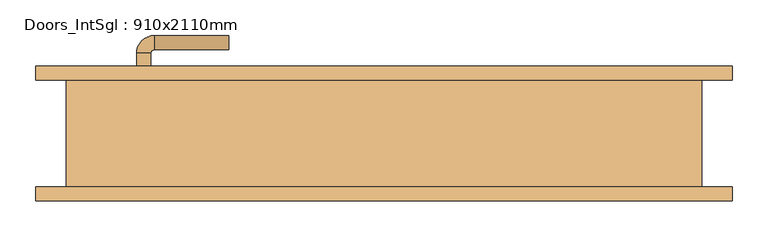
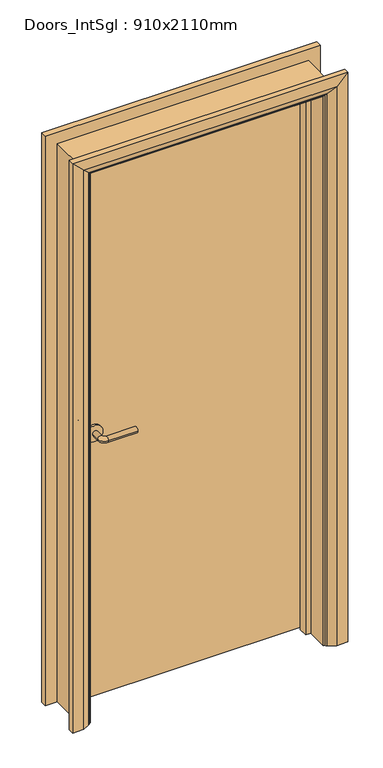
"""IFC4 building model written with IfcOpenShell, lengths in millimetres: door geometry, Doors_IntSgl : 910x2110mm."""

from ifc_helpers import new_model, si_unit, point, frame, frame_2d, origin, place, context, project, spatial, polyline, circle_curve, ellipse_curve, trimmed, segment, composite_curve, outline, extrude, faceted_brep, source, transform, mapped, element, save
from ifc_brep_helpers import plane_surface, cylinder_surface, revolved_surface, advanced_brep


def doors_intsgl_910x2110mm_8bc69504(model_context):
    return source(origin(), model_context, "Body", "SolidModel", [
        advanced_brep(
        [(-348.0, 29.0, 1000.0), (-328.0, 29.0, 1000.0), (-328.0, -1.0, 1000.0), (-348.0, -1.0, 1000.0), (-323.0, -6.0, 1000.0), (-323.0, -26.0, 1000.0), (-218.0, -26.0, 1000.0), (-218.0, -6.0, 1000.0)],
        [
            (0, 1, circle_curve(frame((-338.0, 29.0, 1000.0), z_axis=(0.0, 1.0, 0.0), x_axis=(1.0, 0.0, 0.0)), 10.0)),
            (1, 0, circle_curve(frame((-338.0, 29.0, 1000.0), z_axis=(0.0, 1.0, 0.0), x_axis=(1.0, 0.0, 0.0)), 10.0)),
            (1, 2),
            (2, 3, circle_curve(frame((-338.0, -1.0, 1000.0), z_axis=(0.0, 1.0, 0.0), x_axis=(1.0, 0.0, 0.0)), 10.0)),
            (3, 0),
            (3, 2, circle_curve(frame((-338.0, -1.0, 1000.0), z_axis=(0.0, 1.0, 0.0), x_axis=(1.0, 0.0, 0.0)), 10.0)),
            (4, 5, circle_curve(frame((-323.0, -16.0, 1000.0), z_axis=(-1.0, 0.0, 0.0), x_axis=(0.0, 1.0, 0.0)), 10.0)),
            (5, 3, circle_curve(frame((-323.0, -1.0, 1000.0), z_axis=(0.0, 0.0, -1.0), x_axis=(-1.0, 0.0, 0.0)), 25.0)),
            (2, 4, circle_curve(frame((-323.0, -1.0, 1000.0), z_axis=(0.0, 0.0, 1.0), x_axis=(-1.0, 0.0, 0.0)), 5.0)),
            (5, 4, circle_curve(frame((-323.0, -16.0, 1000.0), z_axis=(-1.0, 0.0, 0.0), x_axis=(0.0, 1.0, 0.0)), 10.0)),
            (6, 7, circle_curve(frame((-218.0, -16.0, 1000.0), z_axis=(1.0, 0.0, 0.0), x_axis=(0.0, 1.0, 0.0)), 10.0)),
            (7, 6, circle_curve(frame((-218.0, -16.0, 1000.0), z_axis=(1.0, 0.0, 0.0), x_axis=(0.0, 1.0, 0.0)), 10.0)),
            (4, 7),
            (6, 5),
        ],
        [
            plane_surface(frame((-338.0, 29.0, 1000.0), z_axis=(0.0, 1.0, 0.0), x_axis=(0.0, 0.0, 1.0))),
            cylinder_surface(frame((-338.0, 29.0, 1000.0), z_axis=(0.0, 1.0, 0.0), x_axis=(1.0, 0.0, 0.0)), 10.0),
            revolved_surface(trimmed(ellipse_curve(frame((-338.0, -1.0, 1000.0), z_axis=(0.0, -1.0, 0.0), x_axis=(1.0, 0.0, 0.0)), 10.0, 10.0), [point((-348.0, -1.0, 1000.0))], [point((-328.0, -1.0, 1000.0))], True, "CARTESIAN"), (-323.0, -1.0, 1000.0), (0.0, 0.0, -1.0)),
            revolved_surface(trimmed(ellipse_curve(frame((-338.0, -1.0, 1000.0), z_axis=(0.0, -1.0, 0.0), x_axis=(1.0, 0.0, 0.0)), 10.0, 10.0), [point((-328.0, -1.0, 1000.0))], [point((-348.0, -1.0, 1000.0))], True, "CARTESIAN"), (-323.0, -1.0, 1000.0), (0.0, 0.0, -1.0)),
            plane_surface(frame((-218.0, -16.0, 1000.0), z_axis=(1.0, 0.0, 0.0), x_axis=(0.0, 0.0, 1.0))),
            cylinder_surface(frame((-323.0, -16.0, 1000.0), z_axis=(-1.0, 0.0, 0.0), x_axis=(0.0, 1.0, 0.0)), 10.0),
        ],
        [
            (0, [[1, 2]]),
            (1, [[3, 4, 5, -2]]),
            (1, [[-5, 6, -3, -1]]),
            (2, [[7, 8, -4, 9]]),
            (3, [[10, -9, -6, -8]]),
            (4, [[11, 12]]),
            (5, [[13, -11, 14, -7]]),
            (5, [[-14, -12, -13, -10]]),
        ],
    ),
        extrude(outline(composite_curve([segment(trimmed(circle_curve(frame_2d((1000.0, -340.5)), 30.0), [point((1000.0, -370.5))], [point((1000.0, -310.5))], False, "CARTESIAN"), True, "CONTINUOUS"), segment(trimmed(circle_curve(frame_2d((1000.0, -340.5)), 30.0), [point((1000.0, -310.5))], [point((1000.0, -370.5))], False, "CARTESIAN"), True, "CONTINUOUS")], self_intersect=False)), frame((0.0, 29.0, 0.0), z_axis=(0.0, 1.0, 0.0), x_axis=(0.0, 0.0, 1.0)), (0.0, 0.0, 1.0), 8.0),
        advanced_brep(
        [(-348.0, 83.0, 1000.0), (-328.0, 83.0, 1000.0), (-348.0, 113.0, 1000.0), (-328.0, 113.0, 1000.0), (-323.0, 118.0, 1000.0), (-323.0, 138.0, 1000.0), (-218.0, 138.0, 1000.0), (-218.0, 118.0, 1000.0)],
        [
            (0, 1, circle_curve(frame((-338.0, 83.0, 1000.0), z_axis=(0.0, -1.0, 0.0), x_axis=(1.0, 0.0, 0.0)), 10.0)),
            (1, 0, circle_curve(frame((-338.0, 83.0, 1000.0), z_axis=(0.0, -1.0, 0.0), x_axis=(1.0, 0.0, 0.0)), 10.0)),
            (0, 2),
            (2, 3, circle_curve(frame((-338.0, 113.0, 1000.0), z_axis=(0.0, -1.0, 0.0), x_axis=(1.0, 0.0, 0.0)), 10.0)),
            (3, 1),
            (3, 2, circle_curve(frame((-338.0, 113.0, 1000.0), z_axis=(0.0, -1.0, 0.0), x_axis=(1.0, 0.0, 0.0)), 10.0)),
            (4, 3, circle_curve(frame((-323.0, 113.0, 1000.0), z_axis=(0.0, 0.0, 1.0), x_axis=(-1.0, 0.0, 0.0)), 5.0)),
            (2, 5, circle_curve(frame((-323.0, 113.0, 1000.0), z_axis=(0.0, 0.0, -1.0), x_axis=(-1.0, 0.0, 0.0)), 25.0)),
            (5, 4, circle_curve(frame((-323.0, 128.0, 1000.0), z_axis=(-1.0, 0.0, 0.0), x_axis=(0.0, -1.0, 0.0)), 10.0)),
            (4, 5, circle_curve(frame((-323.0, 128.0, 1000.0), z_axis=(-1.0, 0.0, 0.0), x_axis=(0.0, -1.0, 0.0)), 10.0)),
            (6, 7, circle_curve(frame((-218.0, 128.0, 1000.0), z_axis=(1.0, 0.0, 0.0), x_axis=(0.0, -1.0, 0.0)), 10.0)),
            (7, 6, circle_curve(frame((-218.0, 128.0, 1000.0), z_axis=(1.0, 0.0, 0.0), x_axis=(0.0, -1.0, 0.0)), 10.0)),
            (5, 6),
            (7, 4),
        ],
        [
            plane_surface(frame((-338.0, 83.0, 1000.0), z_axis=(0.0, -1.0, 0.0), x_axis=(0.0, 0.0, 1.0))),
            cylinder_surface(frame((-338.0, 83.0, 1000.0), z_axis=(0.0, -1.0, 0.0), x_axis=(1.0, 0.0, 0.0)), 10.0),
            revolved_surface(trimmed(ellipse_curve(frame((-338.0, 113.0, 1000.0), z_axis=(0.0, -1.0, 0.0), x_axis=(1.0, 0.0, 0.0)), 10.0, 10.0), [point((-348.0, 113.0, 1000.0))], [point((-328.0, 113.0, 1000.0))], True, "CARTESIAN"), (-323.0, 113.0, 1000.0), (0.0, 0.0, -1.0)),
            revolved_surface(trimmed(ellipse_curve(frame((-338.0, 113.0, 1000.0), z_axis=(0.0, -1.0, 0.0), x_axis=(1.0, 0.0, 0.0)), 10.0, 10.0), [point((-328.0, 113.0, 1000.0))], [point((-348.0, 113.0, 1000.0))], True, "CARTESIAN"), (-323.0, 113.0, 1000.0), (0.0, 0.0, -1.0)),
            plane_surface(frame((-218.0, 128.0, 1000.0), z_axis=(1.0, 0.0, 0.0), x_axis=(0.0, 0.0, 1.0))),
            cylinder_surface(frame((-323.0, 128.0, 1000.0), z_axis=(-1.0, 0.0, 0.0), x_axis=(0.0, -1.0, 0.0)), 10.0),
        ],
        [
            (0, [[1, 2]]),
            (1, [[-1, 3, 4, 5]]),
            (1, [[-2, -5, 6, -3]]),
            (2, [[7, -4, 8, 9]]),
            (3, [[-8, -6, -7, 10]]),
            (4, [[11, 12]]),
            (5, [[-9, 13, -12, 14]]),
            (5, [[-10, -14, -11, -13]]),
        ],
    ),
        extrude(outline(composite_curve([segment(trimmed(circle_curve(frame_2d((1000.0, -340.5)), 30.0), [point((1000.0, -370.5))], [point((1000.0, -310.5))], False, "CARTESIAN"), True, "CONTINUOUS"), segment(trimmed(circle_curve(frame_2d((1000.0, -340.5)), 30.0), [point((1000.0, -310.5))], [point((1000.0, -370.5))], False, "CARTESIAN"), True, "CONTINUOUS")], self_intersect=False)), frame((0.0, 75.0, 0.0), z_axis=(0.0, 1.0, 0.0), x_axis=(0.0, 0.0, 1.0)), (0.0, 0.0, 1.0), 8.0),
        extrude(outline(polyline([(413.0, 37.0), (-413.0, 37.0), (-413.0, 75.0), (413.0, 75.0), (413.0, 37.0)])), frame((0.0, 0.0, 8.0), z_axis=(0.0, 0.0, 1.0), x_axis=(1.0, 0.0, 0.0)), (0.0, 0.0, 1.0), 2060.0),
        advanced_brep(
        [(490.0, 95.0, 0.0), (490.0, 75.0, 0.0), (420.0, 75.0, 0.0), (424.0, 81.0, 0.0), (450.0, 95.0, 0.0), (490.0, 95.0, 2145.0), (490.0, 75.0, 2145.0), (-490.0, 75.0, 2145.0), (-490.0, 75.0, 0.0), (-420.0, 75.0, 0.0), (-420.0, 75.0, 2075.0), (420.0, 75.0, 2075.0), (424.0, 81.0, 2079.0), (450.0, 95.0, 2105.0), (-450.0, 95.0, 2105.0), (-450.0, 95.0, 0.0), (-490.0, 95.0, 0.0), (-490.0, 95.0, 2145.0), (-424.0, 81.0, 2079.0), (-424.0, 81.0, 0.0)],
        [
            (0, 1),
            (1, 2),
            (2, 3, circle_curve(frame((428.0, 74.0, 0.0), z_axis=(0.0, 0.0, -1.0), x_axis=(1.0, 0.0, 0.0)), 8.0622577)),
            (3, 4),
            (4, 0),
            (0, 5),
            (5, 6),
            (6, 1),
            (6, 7),
            (7, 8),
            (8, 9),
            (9, 10),
            (10, 11),
            (11, 2),
            (11, 12, ellipse_curve(frame((428.0, 74.0, 2083.0), z_axis=(0.7071067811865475, 0.0, -0.7071067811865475), x_axis=(-0.7071067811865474, 0.0, -0.7071067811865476)), 11.4017543, 8.0622577)),
            (12, 3),
            (12, 13),
            (13, 4),
            (13, 14),
            (14, 15),
            (15, 16),
            (16, 17),
            (17, 5),
            (17, 7),
            (10, 18, ellipse_curve(frame((-428.0, 74.0, 2083.0), z_axis=(0.7071067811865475, 0.0, 0.7071067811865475), x_axis=(0.7071067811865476, 0.0, -0.7071067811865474)), 11.4017543, 8.0622577)),
            (18, 12),
            (18, 14),
            (15, 19),
            (19, 9, circle_curve(frame((-428.0, 74.0, 0.0), z_axis=(0.0, 0.0, -1.0), x_axis=(-1.0, 0.0, 0.0)), 8.0622577)),
            (8, 16),
            (19, 18),
        ],
        [
            plane_surface(frame((420.0, 75.0, 0.0), z_axis=(0.0, 0.0, -1.0), x_axis=(0.0, -1.0, 0.0))),
            plane_surface(frame((490.0, 95.0, 0.0), z_axis=(1.0, 0.0, 0.0), x_axis=(0.0, 0.0, 1.0))),
            plane_surface(frame((490.0, 75.0, 0.0), z_axis=(0.0, -1.0, 0.0), x_axis=(0.0, 0.0, 1.0))),
            cylinder_surface(frame((428.0, 74.0, 0.0), z_axis=(0.0, 0.0, -1.0), x_axis=(1.0, 0.0, 0.0)), 8.0622577),
            plane_surface(frame((424.0, 81.0, 0.0), z_axis=(-0.4740998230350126, 0.880471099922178, 0.0), x_axis=(0.0, 0.0, 1.0))),
            plane_surface(frame((450.0, 95.0, 0.0), z_axis=(0.0, 1.0, 0.0), x_axis=(0.0, 0.0, 1.0))),
            plane_surface(frame((490.0, 95.0, 2145.0), z_axis=(0.0, 0.0, 1.0), x_axis=(-1.0, 0.0, 0.0))),
            cylinder_surface(frame((420.0, 74.0, 2083.0), z_axis=(1.0, 0.0, 0.0), x_axis=(0.0, 0.0, 1.0)), 8.0622577),
            plane_surface(frame((424.0, 81.0, 2079.0), z_axis=(0.0, 0.8804710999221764, -0.4740998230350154), x_axis=(-1.0, 0.0, 0.0))),
            plane_surface(frame((-420.0, 75.0, 0.0), z_axis=(0.0, 0.0, -1.0), x_axis=(0.0, -1.0, 0.0))),
            plane_surface(frame((-490.0, 95.0, 2145.0), z_axis=(-1.0, 0.0, 0.0), x_axis=(0.0, 0.0, -1.0))),
            cylinder_surface(frame((-428.0, 74.0, 2075.0), z_axis=(0.0, 0.0, 1.0), x_axis=(-1.0, 0.0, 0.0)), 8.0622577),
            plane_surface(frame((-424.0, 81.0, 2079.0), z_axis=(0.47409982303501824, 0.8804710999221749, 0.0), x_axis=(0.0, 0.0, -1.0))),
        ],
        [
            (0, [[1, 2, 3, 4, 5]]),
            (1, [[-1, 6, 7, 8]]),
            (2, [[-2, -8, 9, 10, 11, 12, 13, 14]]),
            (3, [[-3, -14, 15, 16]]),
            (4, [[-4, -16, 17, 18]]),
            (5, [[-5, -18, 19, 20, 21, 22, 23, -6]]),
            (6, [[-7, -23, 24, -9]]),
            (7, [[-15, -13, 25, 26]]),
            (8, [[-17, -26, 27, -19]]),
            (9, [[-21, 28, 29, -11, 30]]),
            (10, [[-24, -22, -30, -10]]),
            (11, [[-25, -12, -29, 31]]),
            (12, [[-27, -31, -28, -20]]),
        ],
    ),
        extrude(outline(polyline([(0.0, -415.0), (0.0, -396.0), (2051.0, -396.0), (2051.0, 396.0), (0.0, 396.0), (0.0, 415.0), (2070.0, 415.0), (2070.0, -415.0), (0.0, -415.0)])), frame((0.0, 3.0, 0.0), z_axis=(0.0, 1.0, 0.0), x_axis=(0.0, 0.0, 1.0)), (0.0, 0.0, 1.0), 32.0),
        advanced_brep(
        [(-490.0, -95.0, 0.0), (-490.0, -75.0, 0.0), (-420.0, -75.0, 0.0), (-424.0, -81.0, 0.0), (-450.0, -95.0, 0.0), (-490.0, -95.0, 2145.0), (-490.0, -75.0, 2145.0), (-420.0, -75.0, 2075.0), (-424.0, -81.0, 2079.0), (-450.0, -95.0, 2105.0), (490.0, -95.0, 2145.0), (490.0, -75.0, 2145.0), (420.0, -75.0, 2075.0), (424.0, -81.0, 2079.0), (450.0, -95.0, 2105.0), (490.0, -95.0, 0.0), (450.0, -95.0, 0.0), (424.0, -81.0, 0.0), (420.0, -75.0, 0.0), (490.0, -75.0, 0.0)],
        [
            (0, 1),
            (1, 2),
            (2, 3, circle_curve(frame((-428.0, -74.0, 0.0), z_axis=(0.0, 0.0, -1.0), x_axis=(-1.0, 0.0, 0.0)), 8.0622577)),
            (3, 4),
            (4, 0),
            (0, 5),
            (5, 6),
            (6, 1),
            (6, 7),
            (7, 2),
            (7, 8, ellipse_curve(frame((-428.0, -74.0, 2083.0), z_axis=(-0.7071067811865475, 0.0, -0.7071067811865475), x_axis=(0.7071067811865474, 0.0, -0.7071067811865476)), 11.4017543, 8.0622577)),
            (8, 3),
            (8, 9),
            (9, 4),
            (9, 5),
            (5, 10),
            (10, 11),
            (11, 6),
            (11, 12),
            (12, 7),
            (12, 13, ellipse_curve(frame((428.0, -74.0, 2083.0), z_axis=(-0.7071067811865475, 0.0, 0.7071067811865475), x_axis=(-0.7071067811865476, 0.0, -0.7071067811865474)), 11.4017543, 8.0622577)),
            (13, 8),
            (13, 14),
            (14, 9),
            (14, 10),
            (15, 16),
            (16, 17),
            (17, 18, circle_curve(frame((428.0, -74.0, 0.0), z_axis=(0.0, 0.0, -1.0), x_axis=(1.0, 0.0, 0.0)), 8.0622577)),
            (18, 19),
            (19, 15),
            (10, 15),
            (19, 11),
            (18, 12),
            (17, 13),
            (16, 14),
        ],
        [
            plane_surface(frame((-420.0, -147.8010989, 0.0), z_axis=(0.0, 0.0, -1.0), x_axis=(1.0, 0.0, 0.0))),
            plane_surface(frame((-490.0, -95.0, 0.0), z_axis=(-1.0, 0.0, 0.0), x_axis=(0.0, 0.0, 1.0))),
            plane_surface(frame((-490.0, -75.0, 0.0), z_axis=(0.0, 1.0, 0.0), x_axis=(0.0, 0.0, 1.0))),
            cylinder_surface(frame((-428.0, -74.0, 0.0), z_axis=(0.0, 0.0, -1.0), x_axis=(-1.0, 0.0, 0.0)), 8.0622577),
            plane_surface(frame((-424.0, -81.0, 0.0), z_axis=(0.4740998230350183, -0.8804710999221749, 0.0), x_axis=(0.0, 0.0, 1.0))),
            plane_surface(frame((-450.0, -95.0, 0.0), z_axis=(0.0, -1.0, 0.0), x_axis=(0.0, 0.0, 1.0))),
            plane_surface(frame((-490.0, -95.0, 2145.0), z_axis=(0.0, 0.0, 1.0), x_axis=(1.0, 0.0, 0.0))),
            plane_surface(frame((-490.0, -75.0, 2145.0), z_axis=(0.0, 1.0, 0.0), x_axis=(1.0, 0.0, 0.0))),
            cylinder_surface(frame((-420.0, -74.0, 2083.0), z_axis=(-1.0, 0.0, 0.0), x_axis=(0.0, 0.0, 1.0)), 8.0622577),
            plane_surface(frame((-424.0, -81.0, 2079.0), z_axis=(0.0, -0.8804710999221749, -0.4740998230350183), x_axis=(1.0, 0.0, 0.0))),
            plane_surface(frame((-450.0, -95.0, 2105.0), z_axis=(0.0, -1.0, 0.0), x_axis=(1.0, 0.0, 0.0))),
            plane_surface(frame((420.0, -147.8010989, 0.0), z_axis=(0.0, 0.0, -1.0), x_axis=(-1.0, 0.0, 0.0))),
            plane_surface(frame((490.0, -95.0, 2145.0), z_axis=(1.0, 0.0, 0.0), x_axis=(0.0, 0.0, -1.0))),
            plane_surface(frame((490.0, -75.0, 2145.0), z_axis=(0.0, 1.0, 0.0), x_axis=(0.0, 0.0, -1.0))),
            cylinder_surface(frame((428.0, -74.0, 2075.0), z_axis=(0.0, 0.0, 1.0), x_axis=(1.0, 0.0, 0.0)), 8.0622577),
            plane_surface(frame((424.0, -81.0, 2079.0), z_axis=(-0.4740998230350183, -0.8804710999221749, 0.0), x_axis=(0.0, 0.0, -1.0))),
            plane_surface(frame((450.0, -95.0, 2105.0), z_axis=(0.0, -1.0, 0.0), x_axis=(0.0, 0.0, -1.0))),
        ],
        [
            (0, [[1, 2, 3, 4, 5]]),
            (1, [[-1, 6, 7, 8]]),
            (2, [[-2, -8, 9, 10]]),
            (3, [[-3, -10, 11, 12]]),
            (4, [[-4, -12, 13, 14]]),
            (5, [[-5, -14, 15, -6]]),
            (6, [[-7, 16, 17, 18]]),
            (7, [[-9, -18, 19, 20]]),
            (8, [[-11, -20, 21, 22]]),
            (9, [[-13, -22, 23, 24]]),
            (10, [[-15, -24, 25, -16]]),
            (11, [[26, 27, 28, 29, 30]]),
            (12, [[-17, 31, -30, 32]]),
            (13, [[-19, -32, -29, 33]]),
            (14, [[-21, -33, -28, 34]]),
            (15, [[-23, -34, -27, 35]]),
            (16, [[-25, -35, -26, -31]]),
        ],
    ),
        faceted_brep([(-415.0, 75.0, 0.0), (-415.0, -75.0, 0.0), (-447.0, -75.0, 0.0), (-447.0, 75.0, 0.0), (-415.0, 75.0, 2070.0), (-415.0, -75.0, 2070.0), (-447.0, -75.0, 2102.0), (-447.0, 75.0, 2102.0), (415.0, 75.0, 2070.0), (415.0, -75.0, 2070.0), (447.0, -75.0, 2102.0), (447.0, 75.0, 2102.0), (415.0, 75.0, 0.0), (447.0, 75.0, 0.0), (447.0, -75.0, 0.0), (415.0, -75.0, 0.0)], [[[0, 1, 2, 3]], [[1, 0, 4, 5]], [[2, 1, 5, 6]], [[3, 2, 6, 7]], [[0, 3, 7, 4]], [[5, 4, 8, 9]], [[6, 5, 9, 10]], [[7, 6, 10, 11]], [[4, 7, 11, 8]], [[12, 13, 14, 15]], [[9, 8, 12, 15]], [[10, 9, 15, 14]], [[11, 10, 14, 13]], [[8, 11, 13, 12]]]),
    ])


if __name__ == "__main__":
    model = new_model("IFC4")
    model_context = context("Model", 3, world=origin())
    ifc_project = project(units=[si_unit("LENGTHUNIT", "METRE", prefix="MILLI")], contexts=[model_context])
    site = spatial("IfcSite", under=ifc_project)
    building = spatial("IfcBuilding", under=site)
    placement = place(None, origin())
    doors_intsgl_910x2110mm_shape = doors_intsgl_910x2110mm_8bc69504(model_context)
    element("IfcDoor", 1, ObjectType="Doors_IntSgl : 910x2110mm", at=placement, inside=building, context=model_context, shape_type="MappedRepresentation", body=[
        mapped(doors_intsgl_910x2110mm_shape, transform((0.0, 0.0, 0.0), x_axis=(1.0, 0.0, 0.0), y_axis=(0.0, 1.0, 0.0), z_axis=(0.0, 0.0, 1.0))),
    ])
    save(model, "model.ifc")
